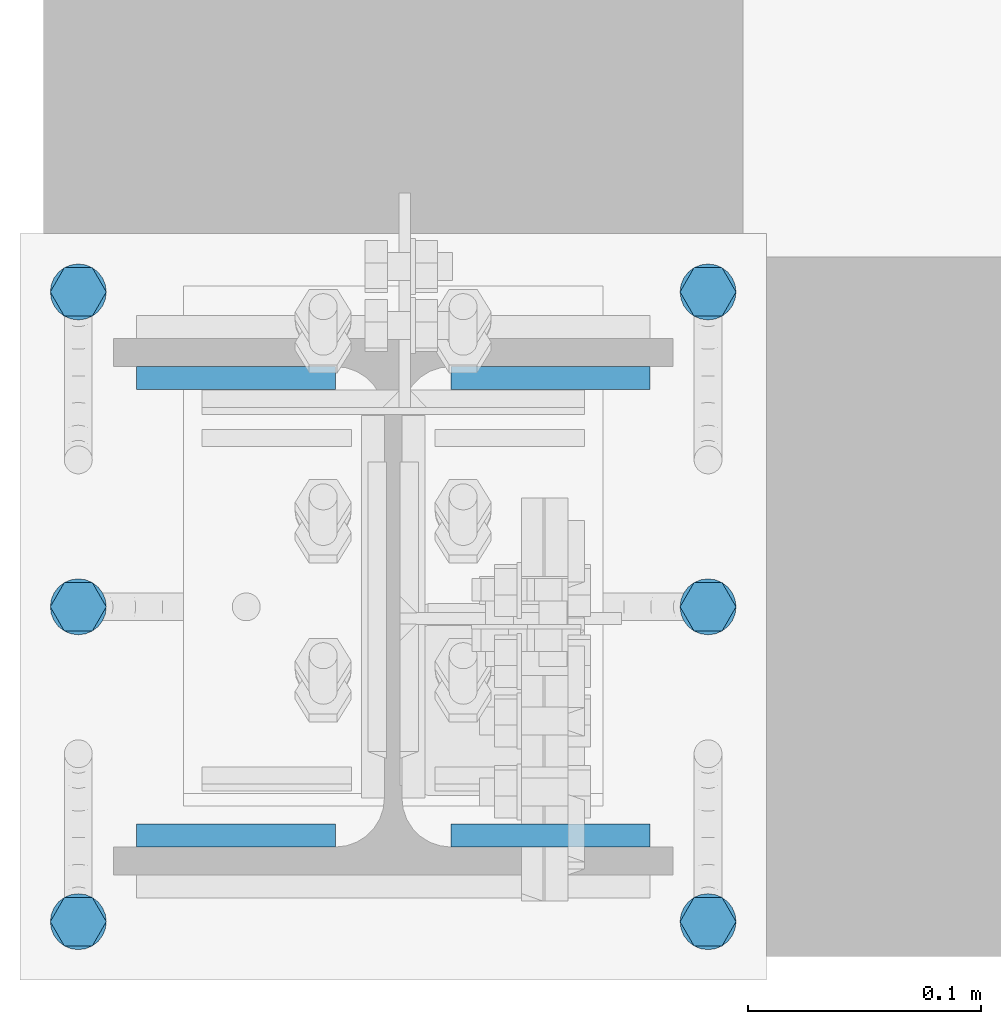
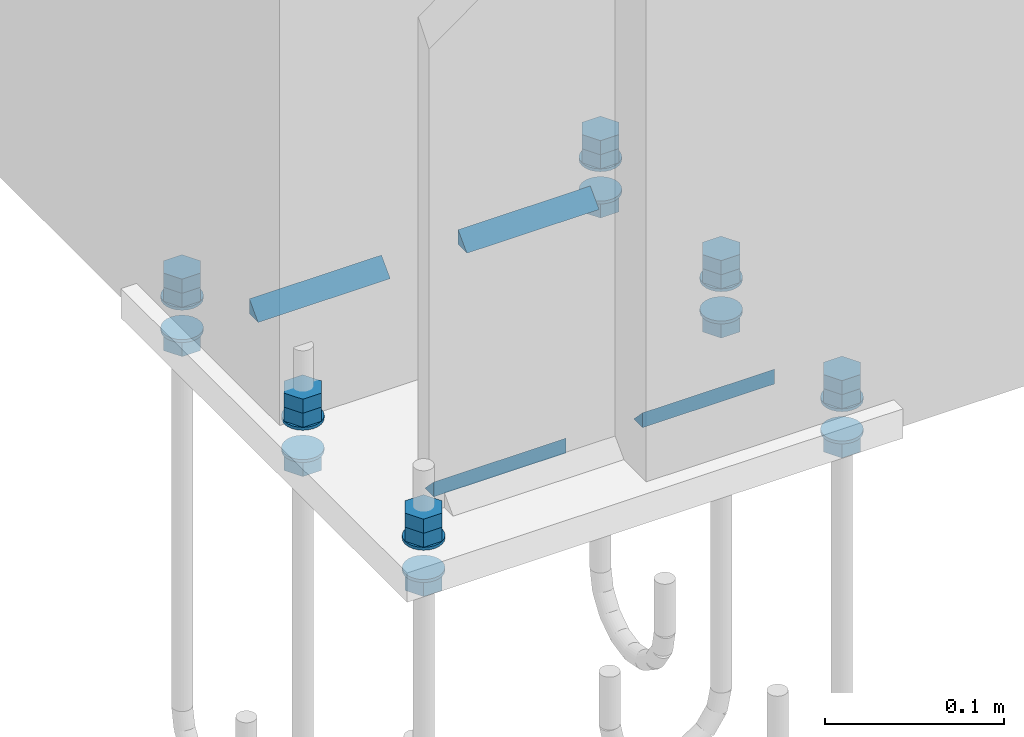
# One storey, part 21 of 72: 30 mechanical fasteners, 8 fasteners.
"""IFC4 building model written with IfcOpenShell, lengths in metres."""

from ifc_helpers import new_model, si_unit, frame, origin_with_axes, place, context, project, spatial, polyline, outline, extrude, type_object, element, save


model = new_model("IFC4")

# Units and contexts
model_context = context("Model", 3, precision=1e-05, world=origin_with_axes())
ifc_project = project(units=[si_unit("LENGTHUNIT", "METRE"), si_unit("AREAUNIT", "SQUARE_METRE"), si_unit("VOLUMEUNIT", "CUBIC_METRE"), si_unit("MASSUNIT", "GRAM", prefix="KILO"), si_unit("TIMEUNIT", "SECOND"), si_unit("PLANEANGLEUNIT", "RADIAN"), si_unit("SOLIDANGLEUNIT", "STERADIAN"), si_unit("THERMODYNAMICTEMPERATUREUNIT", "DEGREE_CELSIUS")], contexts=[model_context])

# Site, building, storey
placement_1 = place(None, origin_with_axes())
site = spatial("IfcSite", under=ifc_project, at=placement_1, Name="Italia", CompositionType="ELEMENT")
building = spatial("IfcBuilding", under=site, at=placement_1, Name="Uffici", CompositionType="ELEMENT")
storey = spatial("IfcBuildingStorey", under=building, at=placement_1, Name="Storey 0", CompositionType="ELEMENT", Elevation=0.0)

# Fasteners
fastener_type_1 = type_object("IfcFastenerType", Name="Collegamenti 0001_0101 0002_0102 0003_0103 0004_0104 0005_0105 0011_0111 0012_0112 0013_0113 0014_0114 0015_0115", PredefinedType="WELD")
placement_2 = place(placement_1, origin_with_axes())
fastener_1_placement = place(placement_2, origin_with_axes())
element("IfcFastener", 1, at=fastener_1_placement, inside=storey, type_object=fastener_type_1, Name="Collegamenti 0001_0101 0002_0102 0003_0103 0004_0104 0005_0105 0011_0111 0012_0112 0013_0113 0014_0114 0015_0115", context=model_context, shape_type="SweptSolid", body=[
    extrude(outline(polyline([(0.0, 0.0), (0.00986816, 0.0101734), (0.00986816, 0.0), (0.0, 0.0)])), frame((0.0247, 0.0931818, 0.01995), z_axis=(1.0, -8.7294438e-08, 0.0), x_axis=(8.7294438e-08, 1.0, 0.0)), (0.0, 0.0, 1.0), 0.08535),
])
fastener_type_2 = type_object("IfcFastenerType", Name="Collegamenti 0001_0101 0002_0102 0003_0103 0004_0104 0005_0105 0011_0111 0012_0112 0013_0113 0014_0114 0015_0115", PredefinedType="WELD")
fastener_2_placement = place(placement_2, origin_with_axes())
element("IfcFastener", 2, at=fastener_2_placement, inside=storey, type_object=fastener_type_2, Name="Collegamenti 0001_0101 0002_0102 0003_0103 0004_0104 0005_0105 0011_0111 0012_0112 0013_0113 0014_0114 0015_0115", context=model_context, shape_type="SweptSolid", body=[
    extrude(outline(polyline([(0.0, 0.0), (0.00986816, 0.0101734), (0.00986816, 0.0), (0.0, 0.0)])), frame((0.11005, -0.0931818, 0.01995), z_axis=(-1.0, 8.7294438e-08, 0.0), x_axis=(-8.7294438e-08, -1.0, 0.0)), (0.0, 0.0, 1.0), 0.08535),
])
fastener_type_3 = type_object("IfcFastenerType", Name="Collegamenti 0001_0101 0002_0102 0003_0103 0004_0104 0005_0105 0011_0111 0012_0112 0013_0113 0014_0114 0015_0115", PredefinedType="WELD")
fastener_3_placement = place(placement_2, origin_with_axes())
element("IfcFastener", 3, at=fastener_3_placement, inside=storey, type_object=fastener_type_3, Name="Collegamenti 0001_0101 0002_0102 0003_0103 0004_0104 0005_0105 0011_0111 0012_0112 0013_0113 0014_0114 0015_0115", context=model_context, shape_type="SweptSolid", body=[
    extrude(outline(polyline([(0.0, 0.0), (0.00986816, 0.0101734), (0.00986816, 0.0), (0.0, 0.0)])), frame((-0.0247, -0.0931818, 0.01995), z_axis=(-1.0, 8.7294438e-08, 0.0), x_axis=(-8.7294438e-08, -1.0, 0.0)), (0.0, 0.0, 1.0), 0.08535),
])
fastener_type_4 = type_object("IfcFastenerType", Name="Collegamenti 0001_0101 0002_0102 0003_0103 0004_0104 0005_0105 0011_0111 0012_0112 0013_0113 0014_0114 0015_0115", PredefinedType="WELD")
fastener_4_placement = place(placement_2, origin_with_axes())
element("IfcFastener", 4, at=fastener_4_placement, inside=storey, type_object=fastener_type_4, Name="Collegamenti 0001_0101 0002_0102 0003_0103 0004_0104 0005_0105 0011_0111 0012_0112 0013_0113 0014_0114 0015_0115", context=model_context, shape_type="SweptSolid", body=[
    extrude(outline(polyline([(0.0, 0.0), (0.00986816, 0.0101734), (0.00986816, 0.0), (0.0, 0.0)])), frame((-0.11005, 0.0931819, 0.01995), z_axis=(1.0, -8.7294438e-08, 0.0), x_axis=(8.7294438e-08, 1.0, 0.0)), (0.0, 0.0, 1.0), 0.08535),
])
fastener_type_5 = type_object("IfcFastenerType", Name="Collegamenti 0001_0101 0002_0102 0003_0103 0004_0104 0005_0105 0011_0111 0012_0112 0013_0113 0014_0114 0015_0115", PredefinedType="WELD")
fastener_5_placement = place(placement_2, origin_with_axes())
element("IfcFastener", 5, at=fastener_5_placement, inside=storey, type_object=fastener_type_5, Name="Collegamenti 0001_0101 0002_0102 0003_0103 0004_0104 0005_0105 0011_0111 0012_0112 0013_0113 0014_0114 0015_0115", context=model_context, shape_type="SweptSolid", body=[
    extrude(outline(polyline([(0.0, 0.0), (0.00986816, 0.0101734), (0.00986816, 0.0), (0.0, 0.0)])), frame((0.0247, 0.0931818, 0.01995), z_axis=(1.0, -8.7294438e-08, 0.0), x_axis=(8.7294438e-08, 1.0, 0.0)), (0.0, 0.0, 1.0), 0.08535),
])
fastener_type_6 = type_object("IfcFastenerType", Name="Collegamenti 0001_0101 0002_0102 0003_0103 0004_0104 0005_0105 0011_0111 0012_0112 0013_0113 0014_0114 0015_0115", PredefinedType="WELD")
fastener_6_placement = place(placement_2, origin_with_axes())
element("IfcFastener", 6, at=fastener_6_placement, inside=storey, type_object=fastener_type_6, Name="Collegamenti 0001_0101 0002_0102 0003_0103 0004_0104 0005_0105 0011_0111 0012_0112 0013_0113 0014_0114 0015_0115", context=model_context, shape_type="SweptSolid", body=[
    extrude(outline(polyline([(0.0, 0.0), (0.00986816, 0.0101734), (0.00986816, 0.0), (0.0, 0.0)])), frame((0.11005, -0.0931818, 0.01995), z_axis=(-1.0, 8.7294438e-08, 0.0), x_axis=(-8.7294438e-08, -1.0, 0.0)), (0.0, 0.0, 1.0), 0.08535),
])
fastener_type_7 = type_object("IfcFastenerType", Name="Collegamenti 0001_0101 0002_0102 0003_0103 0004_0104 0005_0105 0011_0111 0012_0112 0013_0113 0014_0114 0015_0115", PredefinedType="WELD")
fastener_7_placement = place(placement_2, origin_with_axes())
element("IfcFastener", 7, at=fastener_7_placement, inside=storey, type_object=fastener_type_7, Name="Collegamenti 0001_0101 0002_0102 0003_0103 0004_0104 0005_0105 0011_0111 0012_0112 0013_0113 0014_0114 0015_0115", context=model_context, shape_type="SweptSolid", body=[
    extrude(outline(polyline([(0.0, 0.0), (0.00986816, 0.0101734), (0.00986816, 0.0), (0.0, 0.0)])), frame((-0.0247, -0.0931818, 0.01995), z_axis=(-1.0, 8.7294438e-08, 0.0), x_axis=(-8.7294438e-08, -1.0, 0.0)), (0.0, 0.0, 1.0), 0.08535),
])
fastener_type_8 = type_object("IfcFastenerType", Name="Collegamenti 0001_0101 0002_0102 0003_0103 0004_0104 0005_0105 0011_0111 0012_0112 0013_0113 0014_0114 0015_0115", PredefinedType="WELD")
fastener_8_placement = place(placement_2, origin_with_axes())
element("IfcFastener", 8, at=fastener_8_placement, inside=storey, type_object=fastener_type_8, Name="Collegamenti 0001_0101 0002_0102 0003_0103 0004_0104 0005_0105 0011_0111 0012_0112 0013_0113 0014_0114 0015_0115", context=model_context, shape_type="SweptSolid", body=[
    extrude(outline(polyline([(0.0, 0.0), (0.00986816, 0.0101734), (0.00986816, 0.0), (0.0, 0.0)])), frame((-0.11005, 0.0931819, 0.01995), z_axis=(1.0, -8.7294438e-08, 0.0), x_axis=(8.7294438e-08, 1.0, 0.0)), (0.0, 0.0, 1.0), 0.08535),
])

# Mechanical fasteners
mechanical_fastener_type_1 = type_object("IfcMechanicalFastenerType", Name="Collegamenti 0001_0101 0002_0102 0003_0103 0004_0104 0005_0105 0011_0111 0012_0112 0013_0113 0014_0114 0015_0115", PredefinedType="BOLT")
mechanical_fastener_1_placement = place(placement_2, origin_with_axes())
element("IfcMechanicalFastener", 9, at=mechanical_fastener_1_placement, inside=storey, type_object=mechanical_fastener_type_1, Name="Collegamenti 0001_0101 0002_0102 0003_0103 0004_0104 0005_0105 0011_0111 0012_0112 0013_0113 0014_0114 0015_0115", NominalDiameter=0.012, context=model_context, shape_type="SweptSolid", body=[
    extrude(outline(polyline([(0.0, 0.0), (0.0, 0.012), (0.0103923, 0.018), (0.0207846, 0.012), (0.0207846, 0.0), (0.0103923, -0.006), (0.0, 0.0)])), frame((-0.129, -0.145392, 0.022), z_axis=(0.0, 0.0, 1.0), x_axis=(0.0, 1.0, 0.0)), (0.0, 0.0, 1.0), 0.0096),
])
mechanical_fastener_type_2 = type_object("IfcMechanicalFastenerType", Name="Collegamenti 0001_0101 0002_0102 0003_0103 0004_0104 0005_0105 0011_0111 0012_0112 0013_0113 0014_0114 0015_0115", PredefinedType="BOLT")
mechanical_fastener_2_placement = place(placement_2, origin_with_axes())
element("IfcMechanicalFastener", 10, at=mechanical_fastener_2_placement, inside=storey, type_object=mechanical_fastener_type_2, Name="Collegamenti 0001_0101 0002_0102 0003_0103 0004_0104 0005_0105 0011_0111 0012_0112 0013_0113 0014_0114 0015_0115", NominalDiameter=0.012, context=model_context, shape_type="SweptSolid", body=[
    extrude(outline(polyline([(0.0, 0.0), (0.0, 0.012), (0.0103923, 0.018), (0.0207846, 0.012), (0.0207846, 0.0), (0.0103923, -0.006), (0.0, 0.0)])), frame((-0.129, -0.145392, 0.0316), z_axis=(0.0, 0.0, 1.0), x_axis=(0.0, 1.0, 0.0)), (0.0, 0.0, 1.0), 0.0096),
])
mechanical_fastener_type_3 = type_object("IfcMechanicalFastenerType", Name="Collegamenti 0001_0101 0002_0102 0003_0103 0004_0104 0005_0105 0011_0111 0012_0112 0013_0113 0014_0114 0015_0115", PredefinedType="BOLT")
mechanical_fastener_3_placement = place(placement_2, origin_with_axes())
element("IfcMechanicalFastener", 11, at=mechanical_fastener_3_placement, inside=storey, type_object=mechanical_fastener_type_3, Name="Collegamenti 0001_0101 0002_0102 0003_0103 0004_0104 0005_0105 0011_0111 0012_0112 0013_0113 0014_0114 0015_0115", NominalDiameter=0.012, context=model_context, shape_type="SweptSolid", body=[
    extrude(outline(polyline([(0.0, 0.0), (0.0, 0.012), (0.0103923, 0.018), (0.0207846, 0.012), (0.0207846, 0.0), (0.0103923, -0.006), (0.0, 0.0)])), frame((-0.129, -0.145392, -0.0116), z_axis=(0.0, 0.0, 1.0), x_axis=(0.0, 1.0, 0.0)), (0.0, 0.0, 1.0), 0.0096),
])
mechanical_fastener_type_4 = type_object("IfcMechanicalFastenerType", Name="Collegamenti 0001_0101 0002_0102 0003_0103 0004_0104 0005_0105 0011_0111 0012_0112 0013_0113 0014_0114 0015_0115", PredefinedType="BOLT")
mechanical_fastener_4_placement = place(placement_2, origin_with_axes())
element("IfcMechanicalFastener", 12, at=mechanical_fastener_4_placement, inside=storey, type_object=mechanical_fastener_type_4, Name="Collegamenti 0001_0101 0002_0102 0003_0103 0004_0104 0005_0105 0011_0111 0012_0112 0013_0113 0014_0114 0015_0115", NominalDiameter=0.024, context=model_context, shape_type="SweptSolid", body=[
    extrude(outline(polyline([(0.0, 0.0), (-0.000408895, -0.00310583), (-0.00160769, -0.006), (-0.00351471, -0.00848529), (-0.006, -0.0103923), (-0.00889417, -0.0115911), (-0.012, -0.012), (-0.0151058, -0.0115911), (-0.018, -0.0103923), (-0.0204853, -0.00848529), (-0.0223923, -0.006), (-0.0235911, -0.00310583), (-0.024, 0.0), (-0.0235911, 0.00310583), (-0.0223923, 0.006), (-0.0204853, 0.00848529), (-0.018, 0.0103923), (-0.0151058, 0.0115911), (-0.012, 0.012), (-0.00889417, 0.0115911), (-0.006, 0.0103923), (-0.00351471, 0.00848527), (-0.00160769, 0.006), (-0.000408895, 0.00310582), (0.0, 0.0)])), frame((-0.135, -0.123, 0.02), z_axis=(0.0, 0.0, 1.0), x_axis=(0.0, 1.0, 0.0)), (0.0, 0.0, 1.0), 0.002),
])
mechanical_fastener_type_5 = type_object("IfcMechanicalFastenerType", Name="Collegamenti 0001_0101 0002_0102 0003_0103 0004_0104 0005_0105 0011_0111 0012_0112 0013_0113 0014_0114 0015_0115", PredefinedType="BOLT")
mechanical_fastener_5_placement = place(placement_2, origin_with_axes())
element("IfcMechanicalFastener", 13, at=mechanical_fastener_5_placement, inside=storey, type_object=mechanical_fastener_type_5, Name="Collegamenti 0001_0101 0002_0102 0003_0103 0004_0104 0005_0105 0011_0111 0012_0112 0013_0113 0014_0114 0015_0115", NominalDiameter=0.024, context=model_context, shape_type="SweptSolid", body=[
    extrude(outline(polyline([(0.0, 0.0), (-0.000408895, -0.00310583), (-0.00160769, -0.006), (-0.00351471, -0.00848529), (-0.006, -0.0103923), (-0.00889417, -0.0115911), (-0.012, -0.012), (-0.0151058, -0.0115911), (-0.018, -0.0103923), (-0.0204853, -0.00848529), (-0.0223923, -0.006), (-0.0235911, -0.00310583), (-0.024, 0.0), (-0.0235911, 0.00310583), (-0.0223923, 0.006), (-0.0204853, 0.00848529), (-0.018, 0.0103923), (-0.0151058, 0.0115911), (-0.012, 0.012), (-0.00889417, 0.0115911), (-0.006, 0.0103923), (-0.00351471, 0.00848527), (-0.00160769, 0.006), (-0.000408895, 0.00310582), (0.0, 0.0)])), frame((-0.135, -0.123, -0.002), z_axis=(0.0, 0.0, 1.0), x_axis=(0.0, 1.0, 0.0)), (0.0, 0.0, 1.0), 0.002),
])
mechanical_fastener_type_6 = type_object("IfcMechanicalFastenerType", Name="Collegamenti 0001_0101 0002_0102 0003_0103 0004_0104 0005_0105 0011_0111 0012_0112 0013_0113 0014_0114 0015_0115", PredefinedType="BOLT")
mechanical_fastener_6_placement = place(placement_2, origin_with_axes())
element("IfcMechanicalFastener", 14, at=mechanical_fastener_6_placement, inside=storey, type_object=mechanical_fastener_type_6, Name="Collegamenti 0001_0101 0002_0102 0003_0103 0004_0104 0005_0105 0011_0111 0012_0112 0013_0113 0014_0114 0015_0115", NominalDiameter=0.012, context=model_context, shape_type="SweptSolid", body=[
    extrude(outline(polyline([(0.0, 0.0), (0.0, 0.012), (0.0103923, 0.018), (0.0207846, 0.012), (0.0207846, 0.0), (0.0103923, -0.006), (0.0, 0.0)])), frame((0.141, -0.145392, 0.022), z_axis=(0.0, 0.0, 1.0), x_axis=(0.0, 1.0, 0.0)), (0.0, 0.0, 1.0), 0.0096),
])
mechanical_fastener_type_7 = type_object("IfcMechanicalFastenerType", Name="Collegamenti 0001_0101 0002_0102 0003_0103 0004_0104 0005_0105 0011_0111 0012_0112 0013_0113 0014_0114 0015_0115", PredefinedType="BOLT")
mechanical_fastener_7_placement = place(placement_2, origin_with_axes())
element("IfcMechanicalFastener", 15, at=mechanical_fastener_7_placement, inside=storey, type_object=mechanical_fastener_type_7, Name="Collegamenti 0001_0101 0002_0102 0003_0103 0004_0104 0005_0105 0011_0111 0012_0112 0013_0113 0014_0114 0015_0115", NominalDiameter=0.012, context=model_context, shape_type="SweptSolid", body=[
    extrude(outline(polyline([(0.0, 0.0), (0.0, 0.012), (0.0103923, 0.018), (0.0207846, 0.012), (0.0207846, 0.0), (0.0103923, -0.006), (0.0, 0.0)])), frame((0.141, -0.145392, 0.0316), z_axis=(0.0, 0.0, 1.0), x_axis=(0.0, 1.0, 0.0)), (0.0, 0.0, 1.0), 0.0096),
])
mechanical_fastener_type_8 = type_object("IfcMechanicalFastenerType", Name="Collegamenti 0001_0101 0002_0102 0003_0103 0004_0104 0005_0105 0011_0111 0012_0112 0013_0113 0014_0114 0015_0115", PredefinedType="BOLT")
mechanical_fastener_8_placement = place(placement_2, origin_with_axes())
element("IfcMechanicalFastener", 16, at=mechanical_fastener_8_placement, inside=storey, type_object=mechanical_fastener_type_8, Name="Collegamenti 0001_0101 0002_0102 0003_0103 0004_0104 0005_0105 0011_0111 0012_0112 0013_0113 0014_0114 0015_0115", NominalDiameter=0.012, context=model_context, shape_type="SweptSolid", body=[
    extrude(outline(polyline([(0.0, 0.0), (0.0, 0.012), (0.0103923, 0.018), (0.0207846, 0.012), (0.0207846, 0.0), (0.0103923, -0.006), (0.0, 0.0)])), frame((0.141, -0.145392, -0.0116), z_axis=(0.0, 0.0, 1.0), x_axis=(0.0, 1.0, 0.0)), (0.0, 0.0, 1.0), 0.0096),
])
mechanical_fastener_type_9 = type_object("IfcMechanicalFastenerType", Name="Collegamenti 0001_0101 0002_0102 0003_0103 0004_0104 0005_0105 0011_0111 0012_0112 0013_0113 0014_0114 0015_0115", PredefinedType="BOLT")
mechanical_fastener_9_placement = place(placement_2, origin_with_axes())
element("IfcMechanicalFastener", 17, at=mechanical_fastener_9_placement, inside=storey, type_object=mechanical_fastener_type_9, Name="Collegamenti 0001_0101 0002_0102 0003_0103 0004_0104 0005_0105 0011_0111 0012_0112 0013_0113 0014_0114 0015_0115", NominalDiameter=0.024, context=model_context, shape_type="SweptSolid", body=[
    extrude(outline(polyline([(0.0, 0.0), (-0.000408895, -0.00310583), (-0.00160769, -0.006), (-0.00351471, -0.00848529), (-0.006, -0.0103923), (-0.00889417, -0.0115911), (-0.012, -0.012), (-0.0151058, -0.0115911), (-0.018, -0.0103923), (-0.0204853, -0.00848529), (-0.0223923, -0.006), (-0.0235911, -0.00310583), (-0.024, 0.0), (-0.0235911, 0.00310583), (-0.0223923, 0.006), (-0.0204853, 0.00848529), (-0.018, 0.0103923), (-0.0151058, 0.0115911), (-0.012, 0.012), (-0.00889417, 0.0115911), (-0.006, 0.0103923), (-0.00351471, 0.00848527), (-0.00160769, 0.006), (-0.000408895, 0.00310582), (0.0, 0.0)])), frame((0.135, -0.123, 0.02), z_axis=(0.0, 0.0, 1.0), x_axis=(0.0, 1.0, 0.0)), (0.0, 0.0, 1.0), 0.002),
])
mechanical_fastener_type_10 = type_object("IfcMechanicalFastenerType", Name="Collegamenti 0001_0101 0002_0102 0003_0103 0004_0104 0005_0105 0011_0111 0012_0112 0013_0113 0014_0114 0015_0115", PredefinedType="BOLT")
mechanical_fastener_10_placement = place(placement_2, origin_with_axes())
element("IfcMechanicalFastener", 18, at=mechanical_fastener_10_placement, inside=storey, type_object=mechanical_fastener_type_10, Name="Collegamenti 0001_0101 0002_0102 0003_0103 0004_0104 0005_0105 0011_0111 0012_0112 0013_0113 0014_0114 0015_0115", NominalDiameter=0.024, context=model_context, shape_type="SweptSolid", body=[
    extrude(outline(polyline([(0.0, 0.0), (-0.000408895, -0.00310583), (-0.00160769, -0.006), (-0.00351471, -0.00848529), (-0.006, -0.0103923), (-0.00889417, -0.0115911), (-0.012, -0.012), (-0.0151058, -0.0115911), (-0.018, -0.0103923), (-0.0204853, -0.00848529), (-0.0223923, -0.006), (-0.0235911, -0.00310583), (-0.024, 0.0), (-0.0235911, 0.00310583), (-0.0223923, 0.006), (-0.0204853, 0.00848529), (-0.018, 0.0103923), (-0.0151058, 0.0115911), (-0.012, 0.012), (-0.00889417, 0.0115911), (-0.006, 0.0103923), (-0.00351471, 0.00848527), (-0.00160769, 0.006), (-0.000408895, 0.00310582), (0.0, 0.0)])), frame((0.135, -0.123, -0.002), z_axis=(0.0, 0.0, 1.0), x_axis=(0.0, 1.0, 0.0)), (0.0, 0.0, 1.0), 0.002),
])
mechanical_fastener_type_11 = type_object("IfcMechanicalFastenerType", Name="Collegamenti 0001_0101 0002_0102 0003_0103 0004_0104 0005_0105 0011_0111 0012_0112 0013_0113 0014_0114 0015_0115", PredefinedType="BOLT")
mechanical_fastener_11_placement = place(placement_2, origin_with_axes())
element("IfcMechanicalFastener", 19, at=mechanical_fastener_11_placement, inside=storey, type_object=mechanical_fastener_type_11, Name="Collegamenti 0001_0101 0002_0102 0003_0103 0004_0104 0005_0105 0011_0111 0012_0112 0013_0113 0014_0114 0015_0115", NominalDiameter=0.012, context=model_context, shape_type="SweptSolid", body=[
    extrude(outline(polyline([(0.0, 0.0), (0.0, 0.012), (0.0103923, 0.018), (0.0207846, 0.012), (0.0207846, 0.0), (0.0103923, -0.006), (0.0, 0.0)])), frame((-0.129, -0.0103923, 0.022), z_axis=(0.0, 0.0, 1.0), x_axis=(0.0, 1.0, 0.0)), (0.0, 0.0, 1.0), 0.0096),
])
mechanical_fastener_type_12 = type_object("IfcMechanicalFastenerType", Name="Collegamenti 0001_0101 0002_0102 0003_0103 0004_0104 0005_0105 0011_0111 0012_0112 0013_0113 0014_0114 0015_0115", PredefinedType="BOLT")
mechanical_fastener_12_placement = place(placement_2, origin_with_axes())
element("IfcMechanicalFastener", 20, at=mechanical_fastener_12_placement, inside=storey, type_object=mechanical_fastener_type_12, Name="Collegamenti 0001_0101 0002_0102 0003_0103 0004_0104 0005_0105 0011_0111 0012_0112 0013_0113 0014_0114 0015_0115", NominalDiameter=0.012, context=model_context, shape_type="SweptSolid", body=[
    extrude(outline(polyline([(0.0, 0.0), (0.0, 0.012), (0.0103923, 0.018), (0.0207846, 0.012), (0.0207846, 0.0), (0.0103923, -0.006), (0.0, 0.0)])), frame((-0.129, -0.0103923, 0.0316), z_axis=(0.0, 0.0, 1.0), x_axis=(0.0, 1.0, 0.0)), (0.0, 0.0, 1.0), 0.0096),
])
mechanical_fastener_type_13 = type_object("IfcMechanicalFastenerType", Name="Collegamenti 0001_0101 0002_0102 0003_0103 0004_0104 0005_0105 0011_0111 0012_0112 0013_0113 0014_0114 0015_0115", PredefinedType="BOLT")
mechanical_fastener_13_placement = place(placement_2, origin_with_axes())
element("IfcMechanicalFastener", 21, at=mechanical_fastener_13_placement, inside=storey, type_object=mechanical_fastener_type_13, Name="Collegamenti 0001_0101 0002_0102 0003_0103 0004_0104 0005_0105 0011_0111 0012_0112 0013_0113 0014_0114 0015_0115", NominalDiameter=0.012, context=model_context, shape_type="SweptSolid", body=[
    extrude(outline(polyline([(0.0, 0.0), (0.0, 0.012), (0.0103923, 0.018), (0.0207846, 0.012), (0.0207846, 0.0), (0.0103923, -0.006), (0.0, 0.0)])), frame((-0.129, -0.0103923, -0.0116), z_axis=(0.0, 0.0, 1.0), x_axis=(0.0, 1.0, 0.0)), (0.0, 0.0, 1.0), 0.0096),
])
mechanical_fastener_type_14 = type_object("IfcMechanicalFastenerType", Name="Collegamenti 0001_0101 0002_0102 0003_0103 0004_0104 0005_0105 0011_0111 0012_0112 0013_0113 0014_0114 0015_0115", PredefinedType="BOLT")
mechanical_fastener_14_placement = place(placement_2, origin_with_axes())
element("IfcMechanicalFastener", 22, at=mechanical_fastener_14_placement, inside=storey, type_object=mechanical_fastener_type_14, Name="Collegamenti 0001_0101 0002_0102 0003_0103 0004_0104 0005_0105 0011_0111 0012_0112 0013_0113 0014_0114 0015_0115", NominalDiameter=0.024, context=model_context, shape_type="SweptSolid", body=[
    extrude(outline(polyline([(0.0, 0.0), (-0.00040889, -0.00310583), (-0.0016077, -0.006), (-0.00351472, -0.00848529), (-0.006, -0.0103923), (-0.00889417, -0.0115911), (-0.012, -0.012), (-0.0151058, -0.0115911), (-0.018, -0.0103923), (-0.0204853, -0.00848529), (-0.0223923, -0.006), (-0.0235911, -0.00310583), (-0.024, 0.0), (-0.0235911, 0.00310583), (-0.0223923, 0.006), (-0.0204853, 0.00848529), (-0.018, 0.0103923), (-0.0151058, 0.0115911), (-0.012, 0.012), (-0.00889417, 0.0115911), (-0.006, 0.0103923), (-0.00351472, 0.00848527), (-0.00160769, 0.006), (-0.00040889, 0.00310582), (0.0, 0.0)])), frame((-0.135, 0.012, 0.02), z_axis=(0.0, 0.0, 1.0), x_axis=(0.0, 1.0, 0.0)), (0.0, 0.0, 1.0), 0.002),
])
mechanical_fastener_type_15 = type_object("IfcMechanicalFastenerType", Name="Collegamenti 0001_0101 0002_0102 0003_0103 0004_0104 0005_0105 0011_0111 0012_0112 0013_0113 0014_0114 0015_0115", PredefinedType="BOLT")
mechanical_fastener_15_placement = place(placement_2, origin_with_axes())
element("IfcMechanicalFastener", 23, at=mechanical_fastener_15_placement, inside=storey, type_object=mechanical_fastener_type_15, Name="Collegamenti 0001_0101 0002_0102 0003_0103 0004_0104 0005_0105 0011_0111 0012_0112 0013_0113 0014_0114 0015_0115", NominalDiameter=0.024, context=model_context, shape_type="SweptSolid", body=[
    extrude(outline(polyline([(0.0, 0.0), (-0.00040889, -0.00310583), (-0.0016077, -0.006), (-0.00351472, -0.00848529), (-0.006, -0.0103923), (-0.00889417, -0.0115911), (-0.012, -0.012), (-0.0151058, -0.0115911), (-0.018, -0.0103923), (-0.0204853, -0.00848529), (-0.0223923, -0.006), (-0.0235911, -0.00310583), (-0.024, 0.0), (-0.0235911, 0.00310583), (-0.0223923, 0.006), (-0.0204853, 0.00848529), (-0.018, 0.0103923), (-0.0151058, 0.0115911), (-0.012, 0.012), (-0.00889417, 0.0115911), (-0.006, 0.0103923), (-0.00351472, 0.00848527), (-0.00160769, 0.006), (-0.00040889, 0.00310582), (0.0, 0.0)])), frame((-0.135, 0.012, -0.002), z_axis=(0.0, 0.0, 1.0), x_axis=(0.0, 1.0, 0.0)), (0.0, 0.0, 1.0), 0.002),
])
mechanical_fastener_type_16 = type_object("IfcMechanicalFastenerType", Name="Collegamenti 0001_0101 0002_0102 0003_0103 0004_0104 0005_0105 0011_0111 0012_0112 0013_0113 0014_0114 0015_0115", PredefinedType="BOLT")
mechanical_fastener_16_placement = place(placement_2, origin_with_axes())
element("IfcMechanicalFastener", 24, at=mechanical_fastener_16_placement, inside=storey, type_object=mechanical_fastener_type_16, Name="Collegamenti 0001_0101 0002_0102 0003_0103 0004_0104 0005_0105 0011_0111 0012_0112 0013_0113 0014_0114 0015_0115", NominalDiameter=0.012, context=model_context, shape_type="SweptSolid", body=[
    extrude(outline(polyline([(0.0, 0.0), (0.0, 0.012), (0.0103923, 0.018), (0.0207846, 0.012), (0.0207846, 0.0), (0.0103923, -0.006), (0.0, 0.0)])), frame((0.141, -0.0103923, 0.022), z_axis=(0.0, 0.0, 1.0), x_axis=(0.0, 1.0, 0.0)), (0.0, 0.0, 1.0), 0.0096),
])
mechanical_fastener_type_17 = type_object("IfcMechanicalFastenerType", Name="Collegamenti 0001_0101 0002_0102 0003_0103 0004_0104 0005_0105 0011_0111 0012_0112 0013_0113 0014_0114 0015_0115", PredefinedType="BOLT")
mechanical_fastener_17_placement = place(placement_2, origin_with_axes())
element("IfcMechanicalFastener", 25, at=mechanical_fastener_17_placement, inside=storey, type_object=mechanical_fastener_type_17, Name="Collegamenti 0001_0101 0002_0102 0003_0103 0004_0104 0005_0105 0011_0111 0012_0112 0013_0113 0014_0114 0015_0115", NominalDiameter=0.012, context=model_context, shape_type="SweptSolid", body=[
    extrude(outline(polyline([(0.0, 0.0), (0.0, 0.012), (0.0103923, 0.018), (0.0207846, 0.012), (0.0207846, 0.0), (0.0103923, -0.006), (0.0, 0.0)])), frame((0.141, -0.0103923, 0.0316), z_axis=(0.0, 0.0, 1.0), x_axis=(0.0, 1.0, 0.0)), (0.0, 0.0, 1.0), 0.0096),
])
mechanical_fastener_type_18 = type_object("IfcMechanicalFastenerType", Name="Collegamenti 0001_0101 0002_0102 0003_0103 0004_0104 0005_0105 0011_0111 0012_0112 0013_0113 0014_0114 0015_0115", PredefinedType="BOLT")
mechanical_fastener_18_placement = place(placement_2, origin_with_axes())
element("IfcMechanicalFastener", 26, at=mechanical_fastener_18_placement, inside=storey, type_object=mechanical_fastener_type_18, Name="Collegamenti 0001_0101 0002_0102 0003_0103 0004_0104 0005_0105 0011_0111 0012_0112 0013_0113 0014_0114 0015_0115", NominalDiameter=0.012, context=model_context, shape_type="SweptSolid", body=[
    extrude(outline(polyline([(0.0, 0.0), (0.0, 0.012), (0.0103923, 0.018), (0.0207846, 0.012), (0.0207846, 0.0), (0.0103923, -0.006), (0.0, 0.0)])), frame((0.141, -0.0103923, -0.0116), z_axis=(0.0, 0.0, 1.0), x_axis=(0.0, 1.0, 0.0)), (0.0, 0.0, 1.0), 0.0096),
])
mechanical_fastener_type_19 = type_object("IfcMechanicalFastenerType", Name="Collegamenti 0001_0101 0002_0102 0003_0103 0004_0104 0005_0105 0011_0111 0012_0112 0013_0113 0014_0114 0015_0115", PredefinedType="BOLT")
mechanical_fastener_19_placement = place(placement_2, origin_with_axes())
element("IfcMechanicalFastener", 27, at=mechanical_fastener_19_placement, inside=storey, type_object=mechanical_fastener_type_19, Name="Collegamenti 0001_0101 0002_0102 0003_0103 0004_0104 0005_0105 0011_0111 0012_0112 0013_0113 0014_0114 0015_0115", NominalDiameter=0.024, context=model_context, shape_type="SweptSolid", body=[
    extrude(outline(polyline([(0.0, 0.0), (-0.00040889, -0.00310583), (-0.0016077, -0.006), (-0.00351472, -0.00848529), (-0.006, -0.0103923), (-0.00889417, -0.0115911), (-0.012, -0.012), (-0.0151058, -0.0115911), (-0.018, -0.0103923), (-0.0204853, -0.00848529), (-0.0223923, -0.006), (-0.0235911, -0.00310583), (-0.024, 0.0), (-0.0235911, 0.00310583), (-0.0223923, 0.006), (-0.0204853, 0.00848529), (-0.018, 0.0103923), (-0.0151058, 0.0115911), (-0.012, 0.012), (-0.00889417, 0.0115911), (-0.006, 0.0103923), (-0.00351472, 0.00848527), (-0.00160769, 0.006), (-0.00040889, 0.00310582), (0.0, 0.0)])), frame((0.135, 0.012, 0.02), z_axis=(0.0, 0.0, 1.0), x_axis=(0.0, 1.0, 0.0)), (0.0, 0.0, 1.0), 0.002),
])
mechanical_fastener_type_20 = type_object("IfcMechanicalFastenerType", Name="Collegamenti 0001_0101 0002_0102 0003_0103 0004_0104 0005_0105 0011_0111 0012_0112 0013_0113 0014_0114 0015_0115", PredefinedType="BOLT")
mechanical_fastener_20_placement = place(placement_2, origin_with_axes())
element("IfcMechanicalFastener", 28, at=mechanical_fastener_20_placement, inside=storey, type_object=mechanical_fastener_type_20, Name="Collegamenti 0001_0101 0002_0102 0003_0103 0004_0104 0005_0105 0011_0111 0012_0112 0013_0113 0014_0114 0015_0115", NominalDiameter=0.024, context=model_context, shape_type="SweptSolid", body=[
    extrude(outline(polyline([(0.0, 0.0), (-0.00040889, -0.00310583), (-0.0016077, -0.006), (-0.00351472, -0.00848529), (-0.006, -0.0103923), (-0.00889417, -0.0115911), (-0.012, -0.012), (-0.0151058, -0.0115911), (-0.018, -0.0103923), (-0.0204853, -0.00848529), (-0.0223923, -0.006), (-0.0235911, -0.00310583), (-0.024, 0.0), (-0.0235911, 0.00310583), (-0.0223923, 0.006), (-0.0204853, 0.00848529), (-0.018, 0.0103923), (-0.0151058, 0.0115911), (-0.012, 0.012), (-0.00889417, 0.0115911), (-0.006, 0.0103923), (-0.00351472, 0.00848527), (-0.00160769, 0.006), (-0.00040889, 0.00310582), (0.0, 0.0)])), frame((0.135, 0.012, -0.002), z_axis=(0.0, 0.0, 1.0), x_axis=(0.0, 1.0, 0.0)), (0.0, 0.0, 1.0), 0.002),
])
mechanical_fastener_type_21 = type_object("IfcMechanicalFastenerType", Name="Collegamenti 0001_0101 0002_0102 0003_0103 0004_0104 0005_0105 0011_0111 0012_0112 0013_0113 0014_0114 0015_0115", PredefinedType="BOLT")
mechanical_fastener_21_placement = place(placement_2, origin_with_axes())
element("IfcMechanicalFastener", 29, at=mechanical_fastener_21_placement, inside=storey, type_object=mechanical_fastener_type_21, Name="Collegamenti 0001_0101 0002_0102 0003_0103 0004_0104 0005_0105 0011_0111 0012_0112 0013_0113 0014_0114 0015_0115", NominalDiameter=0.012, context=model_context, shape_type="SweptSolid", body=[
    extrude(outline(polyline([(0.0, 0.0), (0.0, 0.012), (0.0103923, 0.018), (0.0207846, 0.012), (0.0207846, 0.0), (0.0103923, -0.00600001), (0.0, 0.0)])), frame((-0.129, 0.124608, 0.022), z_axis=(0.0, 0.0, 1.0), x_axis=(0.0, 1.0, 0.0)), (0.0, 0.0, 1.0), 0.0096),
])
mechanical_fastener_type_22 = type_object("IfcMechanicalFastenerType", Name="Collegamenti 0001_0101 0002_0102 0003_0103 0004_0104 0005_0105 0011_0111 0012_0112 0013_0113 0014_0114 0015_0115", PredefinedType="BOLT")
mechanical_fastener_22_placement = place(placement_2, origin_with_axes())
element("IfcMechanicalFastener", 30, at=mechanical_fastener_22_placement, inside=storey, type_object=mechanical_fastener_type_22, Name="Collegamenti 0001_0101 0002_0102 0003_0103 0004_0104 0005_0105 0011_0111 0012_0112 0013_0113 0014_0114 0015_0115", NominalDiameter=0.012, context=model_context, shape_type="SweptSolid", body=[
    extrude(outline(polyline([(0.0, 0.0), (0.0, 0.012), (0.0103923, 0.018), (0.0207846, 0.012), (0.0207846, 0.0), (0.0103923, -0.00600001), (0.0, 0.0)])), frame((-0.129, 0.124608, 0.0316), z_axis=(0.0, 0.0, 1.0), x_axis=(0.0, 1.0, 0.0)), (0.0, 0.0, 1.0), 0.0096),
])
mechanical_fastener_type_23 = type_object("IfcMechanicalFastenerType", Name="Collegamenti 0001_0101 0002_0102 0003_0103 0004_0104 0005_0105 0011_0111 0012_0112 0013_0113 0014_0114 0015_0115", PredefinedType="BOLT")
mechanical_fastener_23_placement = place(placement_2, origin_with_axes())
element("IfcMechanicalFastener", 31, at=mechanical_fastener_23_placement, inside=storey, type_object=mechanical_fastener_type_23, Name="Collegamenti 0001_0101 0002_0102 0003_0103 0004_0104 0005_0105 0011_0111 0012_0112 0013_0113 0014_0114 0015_0115", NominalDiameter=0.012, context=model_context, shape_type="SweptSolid", body=[
    extrude(outline(polyline([(0.0, 0.0), (0.0, 0.012), (0.0103923, 0.018), (0.0207846, 0.012), (0.0207846, 0.0), (0.0103923, -0.00600001), (0.0, 0.0)])), frame((-0.129, 0.124608, -0.0116), z_axis=(0.0, 0.0, 1.0), x_axis=(0.0, 1.0, 0.0)), (0.0, 0.0, 1.0), 0.0096),
])
mechanical_fastener_type_24 = type_object("IfcMechanicalFastenerType", Name="Collegamenti 0001_0101 0002_0102 0003_0103 0004_0104 0005_0105 0011_0111 0012_0112 0013_0113 0014_0114 0015_0115", PredefinedType="BOLT")
mechanical_fastener_24_placement = place(placement_2, origin_with_axes())
element("IfcMechanicalFastener", 32, at=mechanical_fastener_24_placement, inside=storey, type_object=mechanical_fastener_type_24, Name="Collegamenti 0001_0101 0002_0102 0003_0103 0004_0104 0005_0105 0011_0111 0012_0112 0013_0113 0014_0114 0015_0115", NominalDiameter=0.024, context=model_context, shape_type="SweptSolid", body=[
    extrude(outline(polyline([(0.0, 0.0), (-0.000408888, -0.00310583), (-0.00160769, -0.006), (-0.00351471, -0.00848529), (-0.006, -0.0103923), (-0.00889416, -0.0115911), (-0.012, -0.012), (-0.0151058, -0.0115911), (-0.018, -0.0103923), (-0.0204853, -0.00848529), (-0.0223923, -0.006), (-0.0235911, -0.00310583), (-0.024, 0.0), (-0.0235911, 0.00310583), (-0.0223923, 0.006), (-0.0204853, 0.00848529), (-0.018, 0.0103923), (-0.0151058, 0.0115911), (-0.012, 0.012), (-0.00889416, 0.0115911), (-0.006, 0.0103923), (-0.00351471, 0.00848527), (-0.00160769, 0.006), (-0.000408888, 0.00310582), (0.0, 0.0)])), frame((-0.135, 0.147, 0.02), z_axis=(0.0, 0.0, 1.0), x_axis=(0.0, 1.0, 0.0)), (0.0, 0.0, 1.0), 0.002),
])
mechanical_fastener_type_25 = type_object("IfcMechanicalFastenerType", Name="Collegamenti 0001_0101 0002_0102 0003_0103 0004_0104 0005_0105 0011_0111 0012_0112 0013_0113 0014_0114 0015_0115", PredefinedType="BOLT")
mechanical_fastener_25_placement = place(placement_2, origin_with_axes())
element("IfcMechanicalFastener", 33, at=mechanical_fastener_25_placement, inside=storey, type_object=mechanical_fastener_type_25, Name="Collegamenti 0001_0101 0002_0102 0003_0103 0004_0104 0005_0105 0011_0111 0012_0112 0013_0113 0014_0114 0015_0115", NominalDiameter=0.024, context=model_context, shape_type="SweptSolid", body=[
    extrude(outline(polyline([(0.0, 0.0), (-0.000408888, -0.00310583), (-0.00160769, -0.006), (-0.00351471, -0.00848529), (-0.006, -0.0103923), (-0.00889416, -0.0115911), (-0.012, -0.012), (-0.0151058, -0.0115911), (-0.018, -0.0103923), (-0.0204853, -0.00848529), (-0.0223923, -0.006), (-0.0235911, -0.00310583), (-0.024, 0.0), (-0.0235911, 0.00310583), (-0.0223923, 0.006), (-0.0204853, 0.00848529), (-0.018, 0.0103923), (-0.0151058, 0.0115911), (-0.012, 0.012), (-0.00889416, 0.0115911), (-0.006, 0.0103923), (-0.00351471, 0.00848527), (-0.00160769, 0.006), (-0.000408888, 0.00310582), (0.0, 0.0)])), frame((-0.135, 0.147, -0.002), z_axis=(0.0, 0.0, 1.0), x_axis=(0.0, 1.0, 0.0)), (0.0, 0.0, 1.0), 0.002),
])
mechanical_fastener_type_26 = type_object("IfcMechanicalFastenerType", Name="Collegamenti 0001_0101 0002_0102 0003_0103 0004_0104 0005_0105 0011_0111 0012_0112 0013_0113 0014_0114 0015_0115", PredefinedType="BOLT")
mechanical_fastener_26_placement = place(placement_2, origin_with_axes())
element("IfcMechanicalFastener", 34, at=mechanical_fastener_26_placement, inside=storey, type_object=mechanical_fastener_type_26, Name="Collegamenti 0001_0101 0002_0102 0003_0103 0004_0104 0005_0105 0011_0111 0012_0112 0013_0113 0014_0114 0015_0115", NominalDiameter=0.012, context=model_context, shape_type="SweptSolid", body=[
    extrude(outline(polyline([(0.0, 0.0), (0.0, 0.012), (0.0103923, 0.018), (0.0207846, 0.012), (0.0207846, 0.0), (0.0103923, -0.006), (0.0, 0.0)])), frame((0.141, 0.124608, 0.022), z_axis=(0.0, 0.0, 1.0), x_axis=(0.0, 1.0, 0.0)), (0.0, 0.0, 1.0), 0.0096),
])
mechanical_fastener_type_27 = type_object("IfcMechanicalFastenerType", Name="Collegamenti 0001_0101 0002_0102 0003_0103 0004_0104 0005_0105 0011_0111 0012_0112 0013_0113 0014_0114 0015_0115", PredefinedType="BOLT")
mechanical_fastener_27_placement = place(placement_2, origin_with_axes())
element("IfcMechanicalFastener", 35, at=mechanical_fastener_27_placement, inside=storey, type_object=mechanical_fastener_type_27, Name="Collegamenti 0001_0101 0002_0102 0003_0103 0004_0104 0005_0105 0011_0111 0012_0112 0013_0113 0014_0114 0015_0115", NominalDiameter=0.012, context=model_context, shape_type="SweptSolid", body=[
    extrude(outline(polyline([(0.0, 0.0), (0.0, 0.012), (0.0103923, 0.018), (0.0207846, 0.012), (0.0207846, 0.0), (0.0103923, -0.006), (0.0, 0.0)])), frame((0.141, 0.124608, 0.0316), z_axis=(0.0, 0.0, 1.0), x_axis=(0.0, 1.0, 0.0)), (0.0, 0.0, 1.0), 0.0096),
])
mechanical_fastener_type_28 = type_object("IfcMechanicalFastenerType", Name="Collegamenti 0001_0101 0002_0102 0003_0103 0004_0104 0005_0105 0011_0111 0012_0112 0013_0113 0014_0114 0015_0115", PredefinedType="BOLT")
mechanical_fastener_28_placement = place(placement_2, origin_with_axes())
element("IfcMechanicalFastener", 36, at=mechanical_fastener_28_placement, inside=storey, type_object=mechanical_fastener_type_28, Name="Collegamenti 0001_0101 0002_0102 0003_0103 0004_0104 0005_0105 0011_0111 0012_0112 0013_0113 0014_0114 0015_0115", NominalDiameter=0.012, context=model_context, shape_type="SweptSolid", body=[
    extrude(outline(polyline([(0.0, 0.0), (0.0, 0.012), (0.0103923, 0.018), (0.0207846, 0.012), (0.0207846, 0.0), (0.0103923, -0.006), (0.0, 0.0)])), frame((0.141, 0.124608, -0.0116), z_axis=(0.0, 0.0, 1.0), x_axis=(0.0, 1.0, 0.0)), (0.0, 0.0, 1.0), 0.0096),
])
mechanical_fastener_type_29 = type_object("IfcMechanicalFastenerType", Name="Collegamenti 0001_0101 0002_0102 0003_0103 0004_0104 0005_0105 0011_0111 0012_0112 0013_0113 0014_0114 0015_0115", PredefinedType="BOLT")
mechanical_fastener_29_placement = place(placement_2, origin_with_axes())
element("IfcMechanicalFastener", 37, at=mechanical_fastener_29_placement, inside=storey, type_object=mechanical_fastener_type_29, Name="Collegamenti 0001_0101 0002_0102 0003_0103 0004_0104 0005_0105 0011_0111 0012_0112 0013_0113 0014_0114 0015_0115", NominalDiameter=0.024, context=model_context, shape_type="SweptSolid", body=[
    extrude(outline(polyline([(0.0, 0.0), (-0.000408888, -0.00310583), (-0.00160769, -0.006), (-0.00351471, -0.00848529), (-0.006, -0.0103923), (-0.00889416, -0.0115911), (-0.012, -0.012), (-0.0151058, -0.0115911), (-0.018, -0.0103923), (-0.0204853, -0.00848529), (-0.0223923, -0.006), (-0.0235911, -0.00310583), (-0.024, 0.0), (-0.0235911, 0.00310583), (-0.0223923, 0.006), (-0.0204853, 0.00848529), (-0.018, 0.0103923), (-0.0151058, 0.0115911), (-0.012, 0.012), (-0.00889416, 0.0115911), (-0.006, 0.0103923), (-0.00351471, 0.00848527), (-0.00160769, 0.006), (-0.000408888, 0.00310582), (0.0, 0.0)])), frame((0.135, 0.147, 0.02), z_axis=(0.0, 0.0, 1.0), x_axis=(0.0, 1.0, 0.0)), (0.0, 0.0, 1.0), 0.002),
])
mechanical_fastener_type_30 = type_object("IfcMechanicalFastenerType", Name="Collegamenti 0001_0101 0002_0102 0003_0103 0004_0104 0005_0105 0011_0111 0012_0112 0013_0113 0014_0114 0015_0115", PredefinedType="BOLT")
mechanical_fastener_30_placement = place(placement_2, origin_with_axes())
element("IfcMechanicalFastener", 38, at=mechanical_fastener_30_placement, inside=storey, type_object=mechanical_fastener_type_30, Name="Collegamenti 0001_0101 0002_0102 0003_0103 0004_0104 0005_0105 0011_0111 0012_0112 0013_0113 0014_0114 0015_0115", NominalDiameter=0.024, context=model_context, shape_type="SweptSolid", body=[
    extrude(outline(polyline([(0.0, 0.0), (-0.000408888, -0.00310583), (-0.00160769, -0.006), (-0.00351471, -0.00848529), (-0.006, -0.0103923), (-0.00889416, -0.0115911), (-0.012, -0.012), (-0.0151058, -0.0115911), (-0.018, -0.0103923), (-0.0204853, -0.00848529), (-0.0223923, -0.006), (-0.0235911, -0.00310583), (-0.024, 0.0), (-0.0235911, 0.00310583), (-0.0223923, 0.006), (-0.0204853, 0.00848529), (-0.018, 0.0103923), (-0.0151058, 0.0115911), (-0.012, 0.012), (-0.00889416, 0.0115911), (-0.006, 0.0103923), (-0.00351471, 0.00848527), (-0.00160769, 0.006), (-0.000408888, 0.00310582), (0.0, 0.0)])), frame((0.135, 0.147, -0.002), z_axis=(0.0, 0.0, 1.0), x_axis=(0.0, 1.0, 0.0)), (0.0, 0.0, 1.0), 0.002),
])

save(model, "model.ifc")
